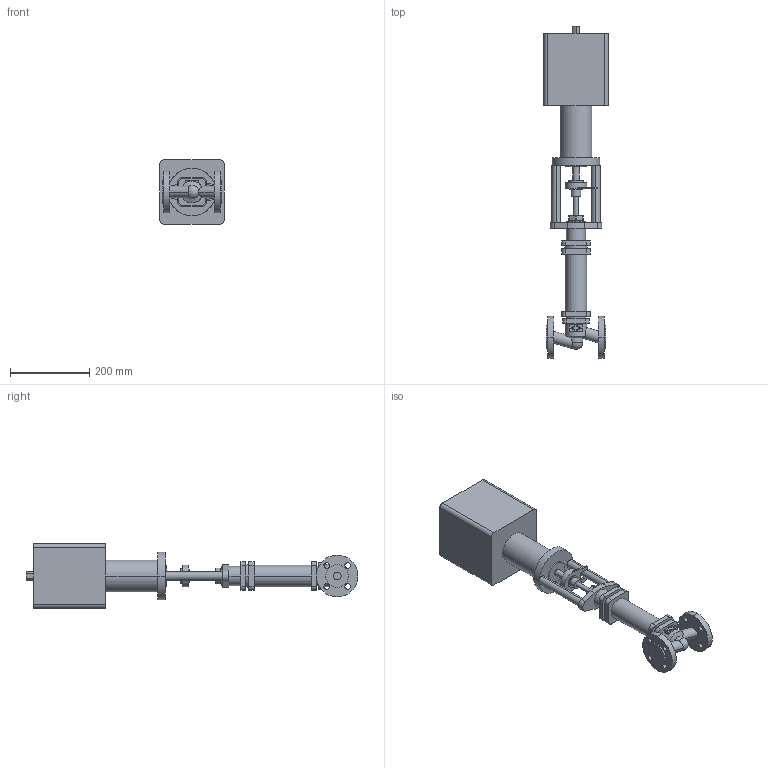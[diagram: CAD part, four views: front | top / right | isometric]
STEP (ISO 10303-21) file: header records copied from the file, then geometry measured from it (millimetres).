
FILE_DESCRIPTION( ( '' ), '1' );
FILE_NAME( 'F:/DE-SHS/TB/OR/04-Sonstiges/daten/files_3d/441-FR2.2/441-PN16-FR2_2/c000004546.stp', '2014-11-06T11:21:20', ( '' ), ( '' ), ' ', ' ', ' ' );
FILE_SCHEMA( ( 'CONFIG_CONTROL_DESIGN' ) );
Length unit declared in the file: millimetre
Products named in the file (2): 1; 2
Bounding box: 162 x 836.5 x 162 mm (x, y, z)
Volume: 7041105.6 mm3; surface area: 404348.7 mm2
Topology: 2 solids, 2 shells, 199 faces, 492 edges, 326 vertices
Faces by surface type: cylinder 100, plane 96, cone 2, sphere 1
Entity records: 6369 total; most frequent: CARTESIAN_POINT 1333, DIRECTION 1091, ORIENTED_EDGE 980, EDGE_CURVE 490, AXIS2_PLACEMENT_3D 414, VERTEX_POINT 326, LINE 263, VECTOR 263
